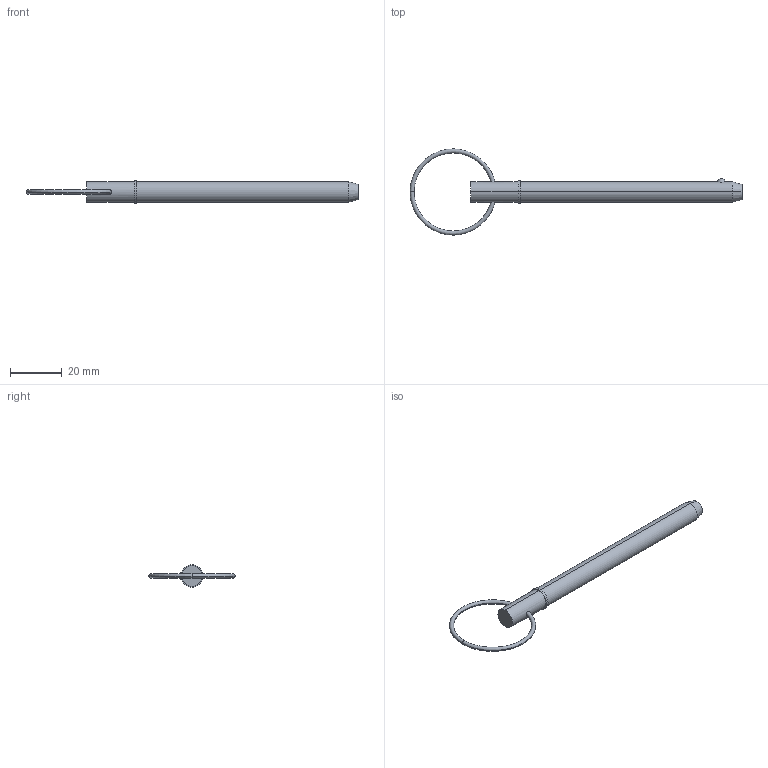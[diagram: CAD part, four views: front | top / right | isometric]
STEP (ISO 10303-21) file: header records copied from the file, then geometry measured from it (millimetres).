
FILE_DESCRIPTION (( 'STEP AP203' ), '1' );
FILE_NAME ('33016.W3130.step', '2024-11-07T11:03:57', ( '' ), ( '' ), 'SwSTEP 2.0', 'SolidWorks 2019', '' );
FILE_SCHEMA (( 'CONFIG_CONTROL_DESIGN' ));
Length unit declared in the file: millimetre
Products named in the file (3): 33016.W3130; Part2_33016.W3130; Part1_33016.W3130
Assembly tree (2 placements, depth 2):
  33016.W3130
    Part1_33016.W3130
    Part2_33016.W3130
Bounding box: 128.32 x 33.34 x 8.73 mm (x, y, z)
Volume: 5332.6 mm3; surface area: 3250.7 mm2
Topology: 2 solids, 2 shells, 22 faces, 43 edges, 26 vertices
Faces by surface type: torus 8, cylinder 6, plane 4, sphere 2, cone 2
Entity records: 989 total; most frequent: CARTESIAN_POINT 212, DIRECTION 120, ORIENTED_EDGE 86, AXIS2_PLACEMENT_3D 56, EDGE_CURVE 43, CIRCLE 29, EDGE_LOOP 27, PERSON_AND_ORGANIZATION 26
